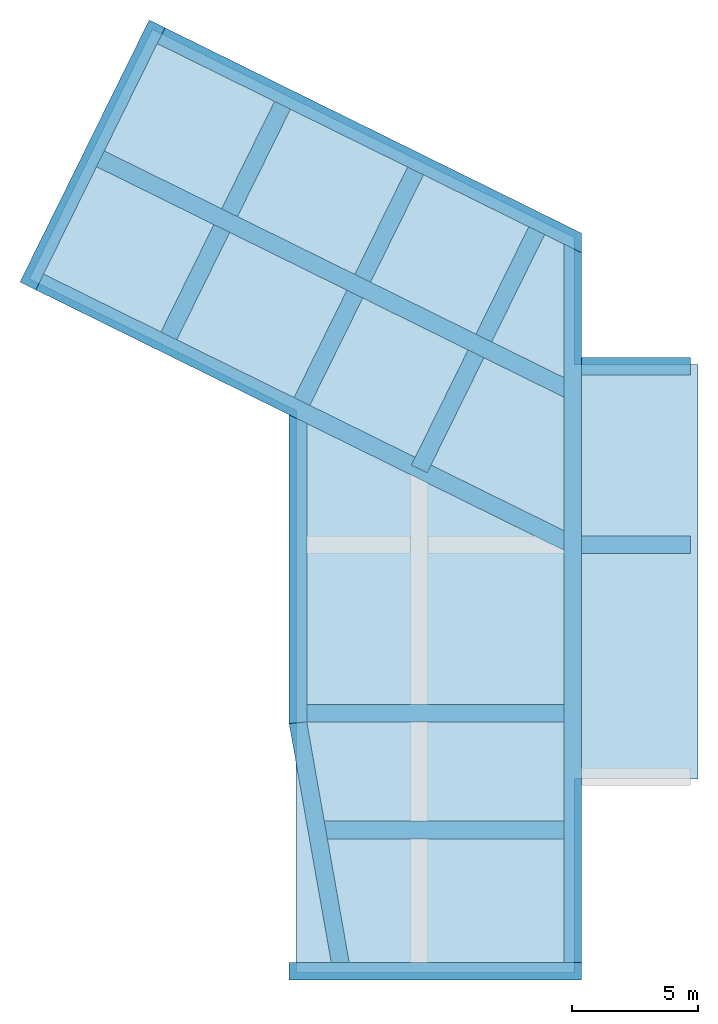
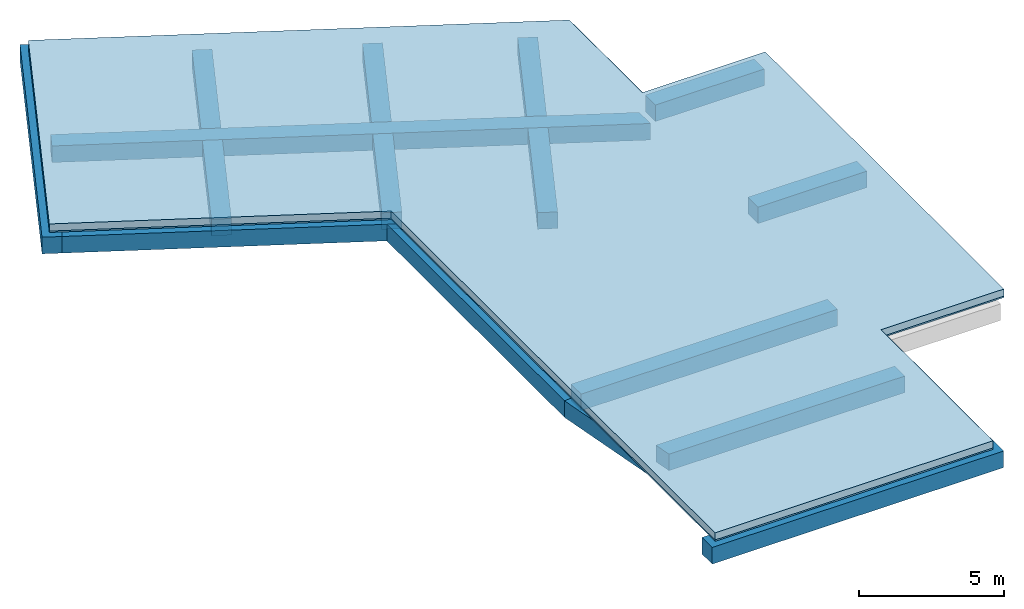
# One storey, part 1 of 3: 15 footings, 2 slabs.
"""IFC4 building model written with IfcOpenShell, lengths in metres."""

from ifc_helpers import new_model, entity, si_unit, converted_unit, derived_unit, frame, frame_2d, origin, origin_with_axes, place, context, subcontext, project, spatial, polyline, rectangle, outline, extrude, faceted_brep, material, element, save


model = new_model("IFC4")

# Units and contexts
model_context = context("Model", 3, precision=1e-05, world=origin())
body_context = subcontext(model_context, "Body", "Model", "MODEL_VIEW")
ifc_project = project(units=[si_unit("LENGTHUNIT", "METRE"), si_unit("AREAUNIT", "SQUARE_METRE"), si_unit("VOLUMEUNIT", "CUBIC_METRE"), si_unit("MASSUNIT", "GRAM", prefix="KILO"), converted_unit("PLANEANGLEUNIT", "DEGREE", entity("IfcPlaneAngleMeasure", 0.0174532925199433), si_unit("PLANEANGLEUNIT", "RADIAN"), dimensions=[0, 0, 0, 0, 0, 0, 0]), derived_unit("THERMALTRANSMITTANCEUNIT", [(si_unit("POWERUNIT", "WATT"), 1), (si_unit("THERMODYNAMICTEMPERATUREUNIT", "KELVIN"), -1), (si_unit("LENGTHUNIT", "METRE"), -2)]), derived_unit("VOLUMETRICFLOWRATEUNIT", [(si_unit("LENGTHUNIT", "METRE"), 3), (converted_unit("TIMEUNIT", "hour", entity("IfcTimeMeasure", 3600.0), si_unit("TIMEUNIT", "SECOND"), dimensions=[0, 0, 1, 0, 0, 0, 0]), -1), (si_unit("LENGTHUNIT", "METRE"), -1)])], contexts=[model_context])

# Site, building, storey
site_placement = place(None, origin())
site = spatial("IfcSite", under=ifc_project, at=site_placement, Name="Psychiatrie Neubau Wunstorf", CompositionType="ELEMENT")
building_placement = place(site_placement, origin())
building = spatial("IfcBuilding", under=site, at=building_placement, Name="Neubau H1 Sozialzentrum", CompositionType="ELEMENT")
storey_placement = place(building_placement, frame((0.0, 0.0, 0.2)))
storey = spatial("IfcBuildingStorey", under=building, at=storey_placement, Name="H1 Gründung", CompositionType="ELEMENT", Elevation=0.2)

# Footings
ifc_material_1 = material(Name="STB")
footing_1_placement = place(storey_placement, frame((-4.70052494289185, 27.8602445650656, -0.76)))
element("IfcFooting", 1, at=footing_1_placement, inside=storey, material=ifc_material_1, Name="Streifenfundament", PredefinedType="STRIP_FOOTING", context=body_context, shape_type="SweptSolid", body=[
    extrude(rectangle(XDim=0.7, YDim=0.700000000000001, at=frame_2d((0.35, 0.35), x_axis=(1.0, 0.0))), frame((0.0, 0.0, 0.0), z_axis=(1.0, 0.0, 0.0), x_axis=(0.0, 1.0, 0.0)), (0.0, 0.0, 1.0), 4.34551151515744),
])
ifc_material_2 = material(Name="STB")
footing_2_placement = place(storey_placement, frame((-4.70052494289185, 20.761337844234, -0.76)))
element("IfcFooting", 2, at=footing_2_placement, inside=storey, material=ifc_material_2, Name="Streifenfundament", PredefinedType="STRIP_FOOTING", context=body_context, shape_type="SweptSolid", body=[
    extrude(rectangle(XDim=0.7, YDim=0.700000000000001, at=frame_2d((0.35, 0.35), x_axis=(1.0, 0.0))), frame((0.0, 0.0, 0.0), z_axis=(1.0, 0.0, 0.0), x_axis=(0.0, 1.0, 0.0)), (0.0, 0.0, 1.0), 4.34551151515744),
])
ifc_material_3 = material(Name="STB")
footing_3_placement = place(storey_placement, frame((-16.3285259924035, 14.0010041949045, -0.76)))
element("IfcFooting", 3, at=footing_3_placement, inside=storey, material=ifc_material_3, Name="Streifenfundament", PredefinedType="STRIP_FOOTING", context=body_context, shape_type="Brep", body=[
    faceted_brep([(0.0, 0.0, 0.0), (0.7, 0.0612420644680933, 0.0), (0.700000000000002, 11.9353872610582, 0.0), (0.0, 12.2805250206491, 0.0), (0.7, 0.0612420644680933, 0.700000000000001), (0.0, 0.0, 0.700000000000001), (0.0, 12.2805250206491, 0.700000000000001), (0.700000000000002, 11.9353872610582, 0.700000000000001)], [[[0, 1, 2, 3]], [[4, 5, 6, 7]], [[1, 0, 5, 4]], [[2, 1, 4, 7]], [[3, 2, 7, 6]], [[0, 3, 6, 5]]], orient=[[False], [False], [False], [False], [False], [False]]),
])
ifc_material_4 = material(Name="STB")
footing_4_placement = place(storey_placement, frame((-26.4082409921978, 20.8934352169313, -0.76)))
element("IfcFooting", 4, at=footing_4_placement, inside=storey, material=ifc_material_4, Name="Streifenfundament", PredefinedType="STRIP_FOOTING", context=body_context, shape_type="Brep", body=[
    faceted_brep([(0.30955588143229, 10.9857709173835, 0.0), (0.0, 10.3579372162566, 0.0), (21.007716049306, 0.0, 0.0), (21.007716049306, 0.780461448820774, 0.0), (15.7201981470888, 3.38749299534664, 0.0), (15.5676310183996, 3.07806005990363, 0.0), (14.9397973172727, 3.38761594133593, 0.0), (15.0923644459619, 3.69704887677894, 0.0), (0.0, 10.3579372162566, 0.700000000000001), (0.30955588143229, 10.9857709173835, 0.700000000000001), (15.0923644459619, 3.69704887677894, 0.700000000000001), (14.9397973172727, 3.38761594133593, 0.700000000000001), (15.5676310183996, 3.07806005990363, 0.700000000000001), (15.7201981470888, 3.38749299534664, 0.700000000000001), (21.007716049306, 0.780461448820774, 0.700000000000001), (21.007716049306, 0.0, 0.700000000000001)], [[[0, 1, 2, 3, 4, 5, 6, 7]], [[8, 9, 10, 11, 12, 13, 14, 15]], [[1, 0, 9, 8]], [[2, 1, 8, 15]], [[3, 2, 15, 14]], [[4, 3, 14, 13]], [[5, 4, 13, 12]], [[6, 5, 12, 11]], [[7, 6, 11, 10]], [[0, 7, 10, 9]]], orient=[[False], [False], [False], [False], [False], [False], [False], [False], [False], [False]]),
])
ifc_material_5 = material(Name="STB")
footing_5_placement = place(storey_placement, frame((-15.6285259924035, 14.0622462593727, -0.76)))
element("IfcFooting", 5, at=footing_5_placement, inside=storey, material=ifc_material_5, Name="Streifenfundament", PredefinedType="STRIP_FOOTING", context=body_context, shape_type="SweptSolid", body=[
    extrude(rectangle(XDim=0.7, YDim=0.700000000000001, at=frame_2d((0.35, 0.35), x_axis=(1.0, 0.0))), frame((0.0, 0.0, 0.0), z_axis=(1.0, 0.0, 0.0), x_axis=(0.0, 1.0, 0.0)), (0.0, 0.0, 1.0), 10.2280010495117),
])
ifc_material_6 = material(Name="STB")
footing_6_placement = place(storey_placement, frame((-16.3285259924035, 3.79632204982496, -0.76)))
element("IfcFooting", 6, at=footing_6_placement, inside=storey, material=ifc_material_6, Name="Streifenfundament", PredefinedType="STRIP_FOOTING", context=body_context, shape_type="SweptSolid", body=[
    extrude(rectangle(XDim=0.7, YDim=0.700000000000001, at=frame_2d((0.35, 0.35), x_axis=(1.0, 0.0))), frame((0.0, 0.0, 0.0), z_axis=(1.0, 0.0, 0.0), x_axis=(0.0, 1.0, 0.0)), (0.0, 0.0, 1.0), 11.6280010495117),
])
ifc_material_7 = material(Name="STB")
footing_7_placement = place(storey_placement, frame((-14.9320602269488, 9.41239262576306, -0.76)))
element("IfcFooting", 7, at=footing_7_placement, inside=storey, material=ifc_material_7, Name="Streifenfundament", PredefinedType="STRIP_FOOTING", context=body_context, shape_type="Brep", body=[
    faceted_brep([(0.0, 0.7, 0.0), (0.123428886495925, 0.0, 0.0), (9.53153528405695, 0.0, 0.0), (9.53153528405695, 0.7, 0.0), (0.123428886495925, 0.0, 0.700000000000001), (0.0, 0.7, 0.700000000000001), (9.53153528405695, 0.7, 0.700000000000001), (9.53153528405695, 0.0, 0.700000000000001)], [[[0, 1, 2, 3]], [[4, 5, 6, 7]], [[1, 0, 5, 4]], [[2, 1, 4, 7]], [[3, 2, 7, 6]], [[0, 3, 6, 5]]], orient=[[False], [False], [False], [False], [False], [False]]),
])
ifc_material_8 = material(Name="STB")
footing_8_placement = place(storey_placement, frame((-16.3285259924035, 4.49632204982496, -0.76)))
element("IfcFooting", 8, at=footing_8_placement, inside=storey, material=ifc_material_8, Name="Streifenfundament", PredefinedType="STRIP_FOOTING", context=body_context, shape_type="Brep", body=[
    faceted_brep([(1.67593190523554, 0.0, 0.0), (2.38673053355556, 0.0, 0.0), (0.7, 9.5659242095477, 0.0), (0.0, 9.50468214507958, 0.0), (2.38673053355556, 0.0, 0.700000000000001), (1.67593190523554, 0.0, 0.700000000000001), (0.0, 9.50468214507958, 0.700000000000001), (0.7, 9.5659242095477, 0.700000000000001)], [[[0, 1, 2, 3]], [[4, 5, 6, 7]], [[1, 0, 5, 4]], [[2, 1, 4, 7]], [[3, 2, 7, 6]], [[0, 3, 6, 5]]], orient=[[False], [False], [False], [False], [False], [False]]),
])
ifc_material_9 = material(Name="STB")
footing_9_placement = place(storey_placement, frame((-5.40052494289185, 4.49632204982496, -0.76)))
element("IfcFooting", 9, at=footing_9_placement, inside=storey, material=ifc_material_9, Name="Streifenfundament", PredefinedType="STRIP_FOOTING", context=body_context, shape_type="Brep", body=[
    faceted_brep([(0.0, 0.0, 0.0), (0.7, 0.0, 0.0), (0.700000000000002, 28.2314684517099, 0.0), (0.0, 28.5766062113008, 0.0), (0.7, 0.0, 0.700000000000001), (0.0, 0.0, 0.700000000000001), (0.0, 28.5766062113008, 0.700000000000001), (0.700000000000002, 28.2314684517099, 0.700000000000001)], [[[0, 1, 2, 3]], [[4, 5, 6, 7]], [[1, 0, 5, 4]], [[2, 1, 4, 7]], [[3, 2, 7, 6]], [[0, 3, 6, 5]]], orient=[[False], [False], [False], [False], [False], [False]]),
])
ifc_material_10 = material(Name="STB")
footing_10_placement = place(storey_placement, frame((-23.9928534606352, 26.9831817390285, -0.76)))
element("IfcFooting", 10, at=footing_10_placement, inside=storey, material=ifc_material_10, Name="Streifenfundament", PredefinedType="STRIP_FOOTING", context=body_context, shape_type="Brep", body=[
    faceted_brep([(0.309555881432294, 9.7948545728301, 0.0), (0.0, 9.16702087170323, 0.0), (18.5923285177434, 0.0, 0.0), (18.5923285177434, 0.780461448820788, 0.0), (0.0, 9.16702087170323, 0.700000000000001), (0.309555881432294, 9.7948545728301, 0.700000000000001), (18.5923285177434, 0.780461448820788, 0.700000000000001), (18.5923285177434, 0.0, 0.700000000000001)], [[[0, 1, 2, 3]], [[4, 5, 6, 7]], [[1, 0, 5, 4]], [[2, 1, 4, 7]], [[3, 2, 7, 6]], [[0, 3, 6, 5]]], orient=[[False], [False], [False], [False], [False], [False]]),
])
ifc_material_11 = material(Name="STB")
footing_11_placement = place(storey_placement, frame((-21.5774659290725, 32.7277905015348, -0.76)))
element("IfcFooting", 11, at=footing_11_placement, inside=storey, material=ifc_material_11, Name="Streifenfundament", PredefinedType="STRIP_FOOTING", context=body_context, shape_type="Brep", body=[
    faceted_brep([(0.309555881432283, 8.94907598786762, 0.0), (0.0, 8.32124228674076, 0.0), (16.8769409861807, 0.0, 0.0), (16.8769409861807, 0.780461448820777, 0.0), (0.0, 8.32124228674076, 0.700000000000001), (0.309555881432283, 8.94907598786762, 0.700000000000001), (16.8769409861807, 0.780461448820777, 0.700000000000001), (16.8769409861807, 0.0, 0.700000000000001)], [[[0, 1, 2, 3]], [[4, 5, 6, 7]], [[1, 0, 5, 4]], [[2, 1, 4, 7]], [[3, 2, 7, 6]], [[0, 3, 6, 5]]], orient=[[False], [False], [False], [False], [False], [False]]),
])
ifc_material_12 = material(Name="STB")
footing_12_placement = place(storey_placement, frame((-11.6136572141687, 36.1363376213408, -0.76), z_axis=(0.0, 0.0, 1.0), x_axis=(-0.442222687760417, -0.896905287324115, 0.0)))
element("IfcFooting", 12, at=footing_12_placement, inside=storey, material=ifc_material_12, Name="Streifenfundament", PredefinedType="STRIP_FOOTING", context=body_context, shape_type="SweptSolid", body=[
    extrude(rectangle(XDim=0.700000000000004, YDim=0.700000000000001, at=frame_2d((0.350000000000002, 0.35), x_axis=(1.0, 0.0))), frame((0.0, 0.0, 0.0), z_axis=(1.0, 0.0, 0.0), x_axis=(0.0, 1.0, 0.0)), (0.0, 0.0, 1.0), 4.76192585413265),
    extrude(rectangle(XDim=0.700000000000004, YDim=0.700000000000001, at=frame_2d((0.350000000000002, 0.35), x_axis=(1.0, 0.0))), frame((5.46192585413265, 0.0, 0.0), z_axis=(1.0, 0.0, 0.0), x_axis=(0.0, 1.0, 0.0)), (0.0, 0.0, 1.0), 4.76192585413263),
])
ifc_material_13 = material(Name="STB")
footing_13_placement = place(storey_placement, frame((-10.8406099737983, 23.9714952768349, -0.76), z_axis=(0.0, 0.0, 1.0), x_axis=(0.442222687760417, 0.896905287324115, 0.0)))
element("IfcFooting", 13, at=footing_13_placement, inside=storey, material=ifc_material_13, Name="Streifenfundament", PredefinedType="STRIP_FOOTING", context=body_context, shape_type="SweptSolid", body=[
    extrude(rectangle(XDim=0.7, YDim=0.700000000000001, at=frame_2d((0.35, 0.35), x_axis=(1.0, 0.0))), frame((0.0, 0.0, 0.0), z_axis=(1.0, 0.0, 0.0), x_axis=(0.0, 1.0, 0.0)), (0.0, 0.0, 1.0), 5.10692653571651),
    extrude(rectangle(XDim=0.7, YDim=0.700000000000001, at=frame_2d((0.35, 0.35), x_axis=(1.0, 0.0))), frame((5.80692653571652, 0.0, 0.0), z_axis=(1.0, 0.0, 0.0), x_axis=(0.0, 1.0, 0.0)), (0.0, 0.0, 1.0), 4.76192585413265),
])
ifc_material_14 = material(Name="STB")
footing_14_placement = place(storey_placement, frame((-16.9072364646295, 38.7463577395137, -0.76), z_axis=(0.0, 0.0, 1.0), x_axis=(-0.442222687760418, -0.896905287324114, 0.0)))
element("IfcFooting", 14, at=footing_14_placement, inside=storey, material=ifc_material_14, Name="Streifenfundament", PredefinedType="STRIP_FOOTING", context=body_context, shape_type="SweptSolid", body=[
    extrude(rectangle(XDim=0.7, YDim=0.700000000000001, at=frame_2d((0.35, 0.35), x_axis=(1.0, 0.0))), frame((0.0, 0.0, 0.0), z_axis=(1.0, 0.0, 0.0), x_axis=(0.0, 1.0, 0.0)), (0.0, 0.0, 1.0), 4.76192585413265),
    extrude(rectangle(XDim=0.7, YDim=0.700000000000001, at=frame_2d((0.35, 0.35), x_axis=(1.0, 0.0))), frame((5.46192585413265, 0.0, 0.0), z_axis=(1.0, 0.0, 0.0), x_axis=(0.0, 1.0, 0.0)), (0.0, 0.0, 1.0), 4.76192585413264),
])
ifc_material_15 = material(Name="STB")
footing_15_placement = place(storey_placement, frame((-21.8957437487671, 41.9864223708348, -0.76), z_axis=(0.0, 0.0, 1.0), x_axis=(-0.442222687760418, -0.896905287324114, 0.0)))
element("IfcFooting", 15, at=footing_15_placement, inside=storey, material=ifc_material_15, Name="Streifenfundament", PredefinedType="STRIP_FOOTING", context=body_context, shape_type="SweptSolid", body=[
    extrude(rectangle(XDim=0.700000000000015, YDim=0.700000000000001, at=frame_2d((0.350000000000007, 0.35), x_axis=(1.0, 0.0))), frame((0.0, 0.0, 0.0), z_axis=(1.0, 0.0, 0.0), x_axis=(0.0, 1.0, 0.0)), (0.0, 0.0, 1.0), 11.6238517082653),
])

# Slabs
ifc_material_16 = material(Name="STB")
slab_1_placement = place(storey_placement, frame((-26.6745101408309, 4.06632204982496, 0.0)))
element("IfcSlab", 16, at=slab_1_placement, inside=storey, material=ifc_material_16, PredefinedType="BASESLAB", context=body_context, shape_type="SweptSolid", body=[
    extrude(outline(polyline([(10.6159841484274, 0.0), (21.7039848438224, 0.0), (21.7039848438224, 7.72992418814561), (26.6085101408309, 7.72992418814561), (26.6085101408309, 24.2239225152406), (21.7039848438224, 24.2239225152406), (21.7039848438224, 29.2740195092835), (4.90153069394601, 37.558535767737), (0.0, 27.6173705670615), (10.6159841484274, 22.3831177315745), (10.6159841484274, 0.0)])), origin_with_axes(), (0.0, 0.0, 1.0), 0.3),
])
ifc_material_17 = material(Name="BP-DE")
slab_2_placement = place(storey_placement, frame((-26.6745101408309, 4.06632204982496, -0.06)))
element("IfcSlab", 17, at=slab_2_placement, inside=storey, material=ifc_material_17, PredefinedType="BASESLAB", context=body_context, shape_type="SweptSolid", body=[
    extrude(outline(polyline([(10.6159841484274, 0.0), (21.7039848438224, 0.0), (21.7039848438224, 7.72992418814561), (26.6085101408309, 7.72992418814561), (26.6085101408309, 24.2239225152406), (21.7039848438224, 24.2239225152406), (21.7039848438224, 29.2740195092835), (4.90153069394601, 37.558535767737), (0.0, 27.6173705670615), (10.6159841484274, 22.3831177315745), (10.6159841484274, 0.0)])), origin_with_axes(), (0.0, 0.0, 1.0), 0.06),
])

save(model, "model.ifc")
